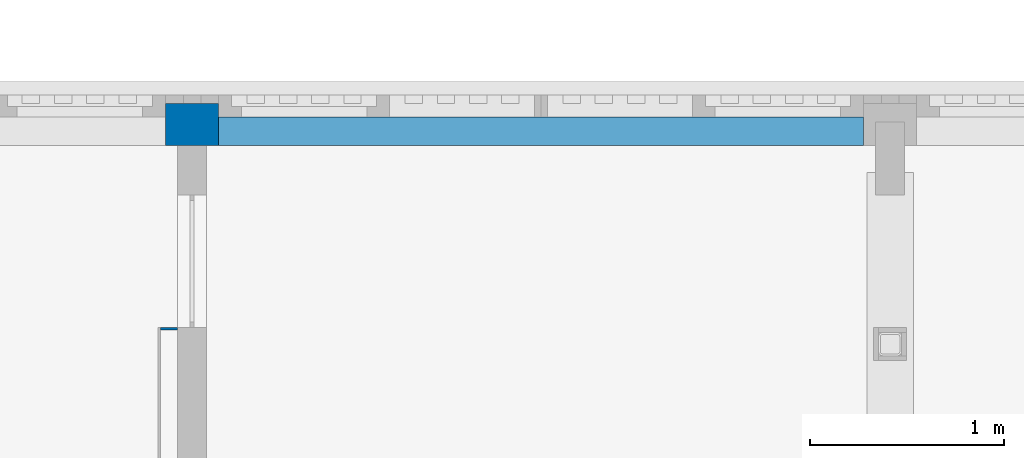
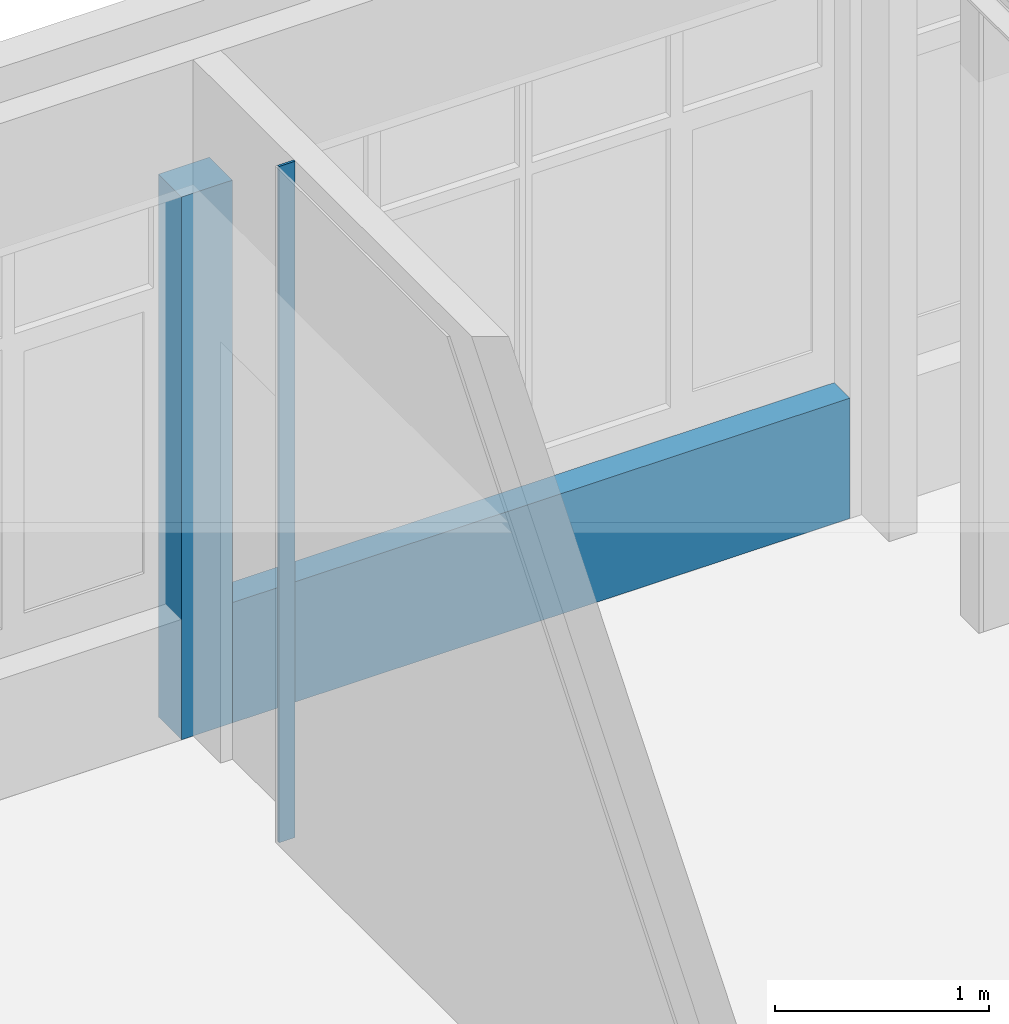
# One storey, part 90 of 135: 3 walls.
"""IFC2X3 building model written with IfcOpenShell, lengths in millimetres."""

from ifc_helpers import new_model, entity, si_unit, converted_unit, derived_unit, money_unit, direction, frame, origin_with_axes, place, context, subcontext, project, spatial, faceted_brep, material, type_object, element, save


model = new_model("IFC2X3")

# Units and contexts
model_context = context("Model", 3, precision=0.01, world=origin_with_axes(), true_north=direction((0.0, 1.0)))
body_context = subcontext(model_context, "Body", "Model", "MODEL_VIEW")
ifc_project = project(units=[si_unit("LENGTHUNIT", "METRE", prefix="MILLI"), si_unit("AREAUNIT", "SQUARE_METRE"), si_unit("VOLUMEUNIT", "CUBIC_METRE"), converted_unit("PLANEANGLEUNIT", "DEGREE", entity("IfcPlaneAngleMeasure", 0.0174532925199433), si_unit("PLANEANGLEUNIT", "RADIAN"), dimensions=[0, 0, 0, 0, 0, 0, 0]), money_unit("EUR"), converted_unit("TIMEUNIT", "Year", entity("IfcTimeMeasure", 31557600.0), si_unit("TIMEUNIT", "SECOND"), dimensions=[0, 0, 1, 0, 0, 0, 0]), si_unit("MASSUNIT", "GRAM", prefix="KILO"), si_unit("THERMODYNAMICTEMPERATUREUNIT", "DEGREE_CELSIUS"), si_unit("LUMINOUSINTENSITYUNIT", "LUMEN"), si_unit("ENERGYUNIT", "JOULE", prefix="MEGA"), derived_unit("THERMALCONDUCTANCEUNIT", [(si_unit("POWERUNIT", "WATT"), 1), (si_unit("LENGTHUNIT", "METRE"), -1), (si_unit("THERMODYNAMICTEMPERATUREUNIT", "KELVIN"), -1)]), derived_unit("SPECIFICHEATCAPACITYUNIT", [(si_unit("ENERGYUNIT", "JOULE"), 1), (si_unit("MASSUNIT", "GRAM", prefix="KILO"), -1), (si_unit("THERMODYNAMICTEMPERATUREUNIT", "KELVIN"), -1)]), derived_unit("MASSDENSITYUNIT", [(si_unit("MASSUNIT", "GRAM", prefix="KILO"), 1), (si_unit("VOLUMEUNIT", "CUBIC_METRE"), -1)])], contexts=[model_context])

# Site, building, storey
site_placement = place(None, origin_with_axes())
site = spatial("IfcSite", under=ifc_project, at=site_placement, Name="Site", CompositionType="ELEMENT")
building_placement = place(site_placement, origin_with_axes())
building = spatial("IfcBuilding", under=site, at=building_placement, Name="Naam gebouw", CompositionType="ELEMENT")
storey_placement = place(building_placement, origin_with_axes())
storey = spatial("IfcBuildingStorey", under=building, at=storey_placement, Name="Begane grond N", CompositionType="ELEMENT", Elevation=0.0)

# Walls
ifc_material_1 = material(Name="ALG - CONSTRUCTIEF")
wall_type_1 = type_object("IfcWallType", Name="ALG - CONSTRUCTIEF 146", PredefinedType="NOTDEFINED")
wall_1_placement = place(storey_placement, frame((43062.49999999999, 27505.91242510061, 0.0), z_axis=(0.0, 0.0, 1.0), x_axis=(-1.0, 0.0, 0.0)))
element("IfcWall", 1, at=wall_1_placement, inside=storey, type_object=wall_type_1, material=ifc_material_1, Name="_Wand-x", context=body_context, shape_type="Brep", body=[
    faceted_brep([(0.0, -146.0000000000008, 685.2268951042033), (3324.999999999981, -146.0000000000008, 685.2268951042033), (3324.999999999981, 0.0, 685.2268951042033), (0.0, 0.0, 685.2268951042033), (0.0, -146.0000000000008, 0.0), (3324.999999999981, -146.0000000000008, 0.0), (3324.999999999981, 0.0, 0.0), (0.0, 0.0, 0.0)], [[[0, 1, 2, 3]], [[4, 5, 1, 0]], [[2, 1, 5, 6]], [[3, 2, 6, 7]], [[4, 0, 3, 7]], [[7, 6, 5, 4]]]),
])
ifc_material_2 = material(Name="Gipsplaat")
wall_type_2 = type_object("IfcWallType", Name="Metalstud 100 enkel 100", PredefinedType="NOTDEFINED")
wall_2_placement = place(storey_placement, frame((39525.0, 26565.9124251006, 0.0), z_axis=(0.0, 0.0, 1.0), x_axis=(-1.0, 0.0, 0.0)))
element("IfcWall", 2, at=wall_2_placement, inside=storey, type_object=wall_type_2, material=ifc_material_2, Name="_Wand-x", context=body_context, shape_type="Brep", body=[
    faceted_brep([(87.49999999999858, 0.0, 0.0), (87.49999999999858, 0.0, 3850.0), (0.0, 0.0, 3850.0), (0.0, 0.0, 0.0), (87.49999999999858, 12.49999999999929, 0.0), (87.49999999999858, 12.49999999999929, 3850.0), (0.0, 12.49999999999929, 3850.0), (0.0, 12.49999999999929, 0.0)], [[[0, 1, 2, 3]], [[4, 5, 1, 0]], [[5, 6, 2, 1]], [[3, 2, 6, 7]], [[7, 4, 0, 3]], [[7, 6, 5, 4]]]),
])
ifc_material_3 = material(Name="ALG - GEVEL")
wall_type_3 = type_object("IfcWallType", Name="ALG - GEVEL 260", PredefinedType="NOTDEFINED")
wall_3_placement = place(storey_placement, frame((39737.50000000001, 27765.91242510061, 0.0), z_axis=(0.0, 0.0, 1.0), x_axis=(-1.0, 0.0, 0.0)))
element("IfcWall", 3, at=wall_3_placement, inside=storey, type_object=wall_type_3, material=ifc_material_3, Name="_Wand-x", context=body_context, shape_type="Brep", body=[
    faceted_brep([(0.0, 43.99999999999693, 3090.000000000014), (0.0, 43.99999999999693, 0.0), (275.0000000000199, 43.99999999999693, 0.0), (275.0000000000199, 43.99999999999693, 3090.000000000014), (0.0, 260.0000000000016, 0.0), (0.0, 260.0000000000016, 3090.0), (275.0000000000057, 260.0000000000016, 0.0), (275.0000000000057, 260.0000000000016, 3090.0)], [[[0, 1, 2, 3]], [[4, 1, 0, 5]], [[2, 1, 4, 6]], [[7, 3, 2, 6]], [[0, 3, 7, 5]], [[4, 5, 7, 6]]]),
])

save(model, "model.ifc")
